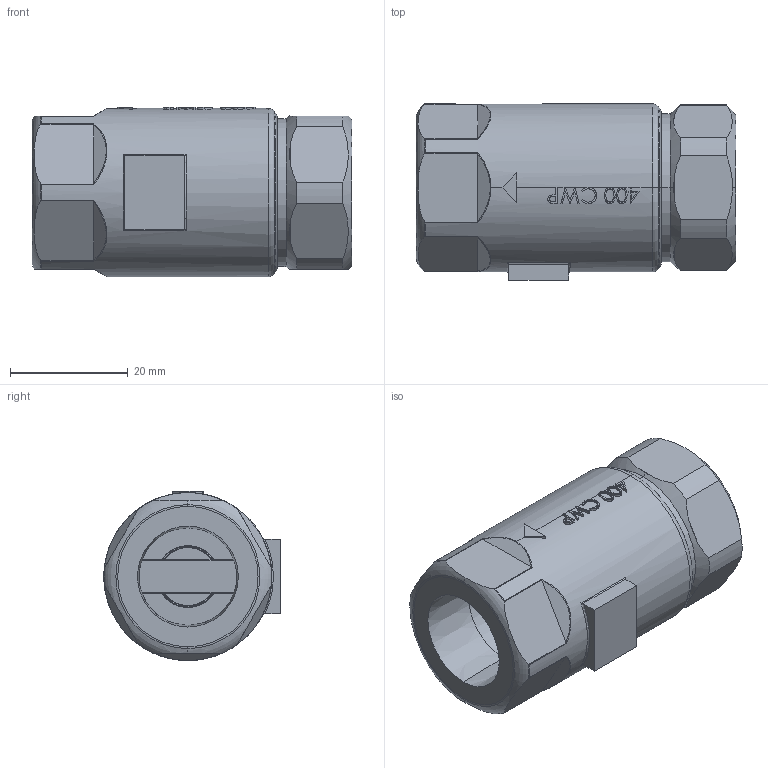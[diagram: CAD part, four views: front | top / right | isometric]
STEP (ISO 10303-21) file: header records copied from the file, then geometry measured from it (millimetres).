
FILE_DESCRIPTION (( 'STEP AP203' ), '1' );
FILE_NAME ('SC-3-BODY.STEP', '2022-09-19T20:14:56', ( '' ), ( '' ), 'SwSTEP 2.0', 'SolidWorks 2021', '' );
FILE_SCHEMA (( 'CONFIG_CONTROL_DESIGN' ));
Length unit declared in the file: inch
Products named in the file (1): SC-3-BODY
Bounding box: 54.36 x 29.97 x 28.77 mm (x, y, z)
Volume: 21203 mm3; surface area: 10625.6 mm2
Topology: 2 solids, 2 shells, 222 faces, 582 edges, 378 vertices
Faces by surface type: plane 91, cylinder 45, bspline 45, torus 29, cone 10, sphere 2
Entity records: 12127 total; most frequent: CARTESIAN_POINT 7032, ORIENTED_EDGE 1162, DIRECTION 875, EDGE_CURVE 581, VERTEX_POINT 376, AXIS2_PLACEMENT_3D 321, EDGE_LOOP 239, LINE 233
